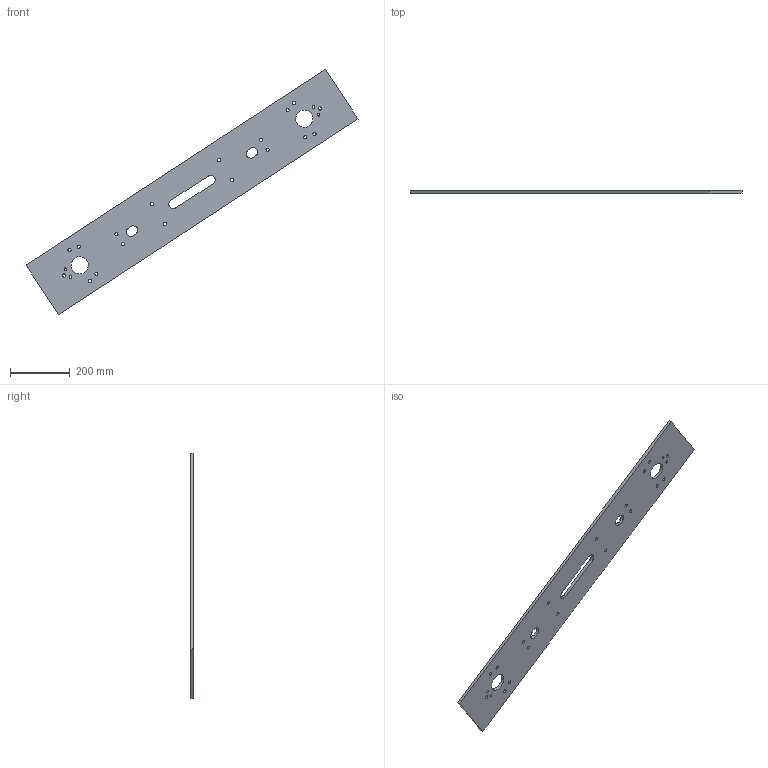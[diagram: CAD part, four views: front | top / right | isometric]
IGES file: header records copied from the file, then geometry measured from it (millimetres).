
Start section: File produced by SOLID-CONCEP (BRep Solid - Entity 186)
Global section: file name: Plaque_support.igs; native system: SOLID-CONCEPT V.5.xx; preprocessor: SOLID-CONCEPT-IGES-OUT v2.00; date: 090204.203433; units: millimetre
Bounding box: 1113.99 x 10 x 823.77 mm (x, y, z)
Volume: 2253048.6 mm3; surface area: 496428.7 mm2
Topology: 1 solids, 1 shells, 42 faces, 120 edges, 80 vertices
Faces by surface type: cylinder 30, plane 12
Full cylindrical faces by diameter (mm): 58 x2
